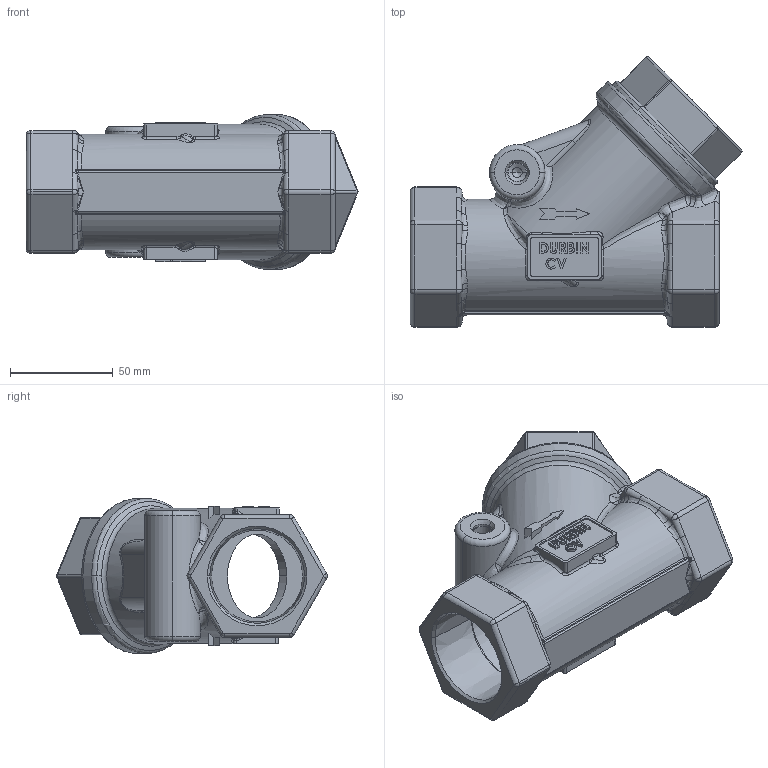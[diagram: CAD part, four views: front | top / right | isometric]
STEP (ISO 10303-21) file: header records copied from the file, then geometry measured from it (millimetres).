
FILE_DESCRIPTION (( 'STEP AP203' ), '1' );
FILE_NAME ('1.50 2W NPT CV-STEP.STEP', '2018-11-07T16:27:52', ( '' ), ( '' ), 'SwSTEP 2.0', 'SolidWorks 2012', '' );
FILE_SCHEMA (( 'CONFIG_CONTROL_DESIGN' ));
Products named in the file (3): 1.50 2W NPT CV-STEP; CV500-SS; CV506-SS
Assembly tree (2 placements, depth 2):
  1.50 2W NPT CV-STEP
    CV506-SS
    CV500-SS
Bounding box: 161.2 x 131.39 x 75.11 mm (x, y, z)
Volume: 238726.9 mm3; surface area: 100620 mm2
Topology: 3 solids, 3 shells, 1053 faces, 2653 edges, 1655 vertices
Faces by surface type: plane 474, bspline 334, cylinder 135, torus 54, sphere 30, cone 26
Entity records: 46928 total; most frequent: CARTESIAN_POINT 23818, ORIENTED_EDGE 5238, DIRECTION 3888, EDGE_CURVE 2619, VERTEX_POINT 1651, LINE 1402, VECTOR 1402, AXIS2_PLACEMENT_3D 1243
